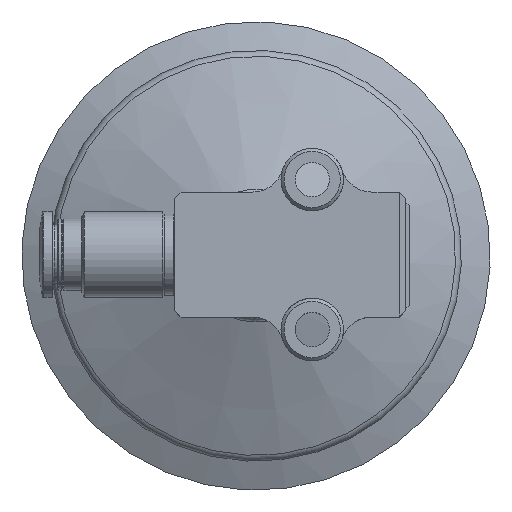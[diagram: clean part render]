
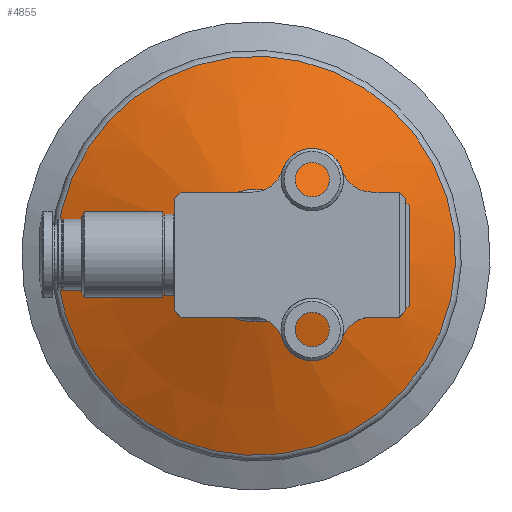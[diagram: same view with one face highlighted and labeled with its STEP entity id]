
A CAD part, top view. The second image highlights one B-rep face of the part: STEP entity #4855.
In plain terms, the highlighted conical face has half-angle 67.472 degrees and reference radius 31.953 mm.
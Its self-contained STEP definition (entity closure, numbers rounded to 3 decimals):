
#52=CONICAL_SURFACE('',#5222,31.953,1.178);
#766=CIRCLE('',#5223,10.617);
#767=CIRCLE('',#5224,31.953);
#1681=ORIENTED_EDGE('',*,*,#2159,.T.);
#1682=ORIENTED_EDGE('',*,*,#2160,.T.);
#2159=EDGE_CURVE('',#2471,#2471,#766,.T.);
#2160=EDGE_CURVE('',#2472,#2472,#767,.T.);
#2471=VERTEX_POINT('',#10690);
#2472=VERTEX_POINT('',#10692);
#2809=EDGE_LOOP('',(#1681));
#2810=EDGE_LOOP('',(#1682));
#3103=FACE_BOUND('',#2809,.T.);
#3104=FACE_BOUND('',#2810,.T.);
#4855=ADVANCED_FACE('',(#3103,#3104),#52,.T.);
#5222=AXIS2_PLACEMENT_3D('',#10688,#6154,#6155);
#5223=AXIS2_PLACEMENT_3D('',#10689,#6156,#6157);
#5224=AXIS2_PLACEMENT_3D('',#10691,#6158,#6159);
#6154=DIRECTION('',(0.,0.,-1.));
#6155=DIRECTION('',(0.541,0.841,0.));
#6156=DIRECTION('',(0.,0.,-1.));
#6157=DIRECTION('',(0.541,0.841,0.));
#6158=DIRECTION('',(0.,0.,1.));
#6159=DIRECTION('',(-0.541,-0.841,0.));
#10688=CARTESIAN_POINT('',(0.,0.,-28.239));
#10689=CARTESIAN_POINT('',(0.,0.,-19.389));
#10690=CARTESIAN_POINT('',(5.739,8.932,-19.389));
#10691=CARTESIAN_POINT('',(0.,0.,-28.239));
#10692=CARTESIAN_POINT('',(-17.272,-26.882,-28.239));
